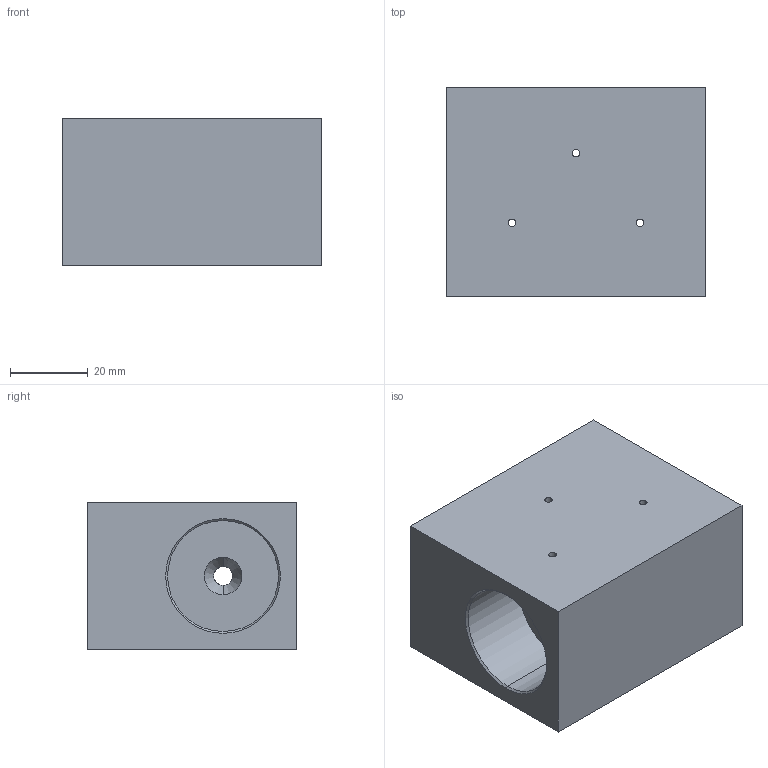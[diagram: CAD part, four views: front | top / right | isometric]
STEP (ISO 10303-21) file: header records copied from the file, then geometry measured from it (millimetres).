
FILE_DESCRIPTION (( 'STEP AP203' ), '1' );
FILE_NAME ('FT60TS09.STEP', '2026-06-26T01:33:13', ( 'USER' ), ( '' ), 'SwSTEP 2.0', 'SolidWorks 2023', '' );
FILE_SCHEMA (( 'CONFIG_CONTROL_DESIGN' ));
Length unit declared in the file: millimetre
Products named in the file (1): FT60TS09
Bounding box: 67 x 54 x 38 mm (x, y, z)
Volume: 99714.1 mm3; surface area: 22165.3 mm2
Topology: 1 solids, 1 shells, 44 faces, 114 edges, 68 vertices
Faces by surface type: cylinder 23, cone 12, plane 9
Entity records: 1601 total; most frequent: CARTESIAN_POINT 429, DIRECTION 228, ORIENTED_EDGE 228, EDGE_CURVE 114, AXIS2_PLACEMENT_3D 87, VERTEX_POINT 68, EDGE_LOOP 56, VECTOR 54
